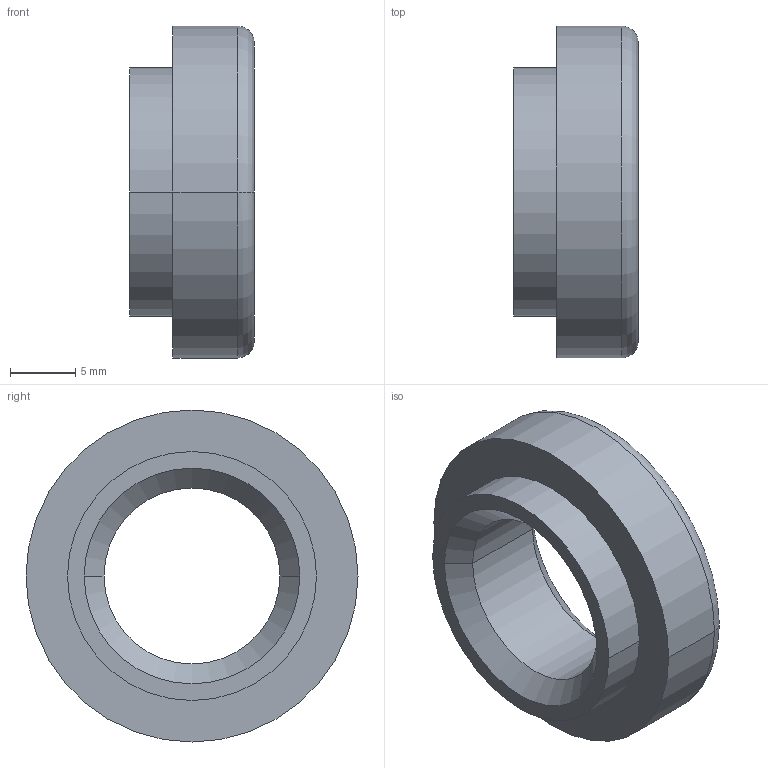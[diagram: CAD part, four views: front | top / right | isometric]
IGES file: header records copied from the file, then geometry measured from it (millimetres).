
Start section:  PTC IGES file: t108cn.igs
Global section: file name: t108cn.igs; native system: Pro/ENGINEER by Parametric Technology Corporation; preprocessor: 2002350; author: chant; organization: Unknown; date: 070703.094520; units: inch
Bounding box: 9.53 x 25.4 x 25.4 mm (x, y, z)
Surface area: 1712.1 mm2 (no closed solid volume)
Topology: 0 solids, 0 shells, 15 faces, 81 edges, 93 vertices
Faces by surface type: revolution 12, bspline 3
